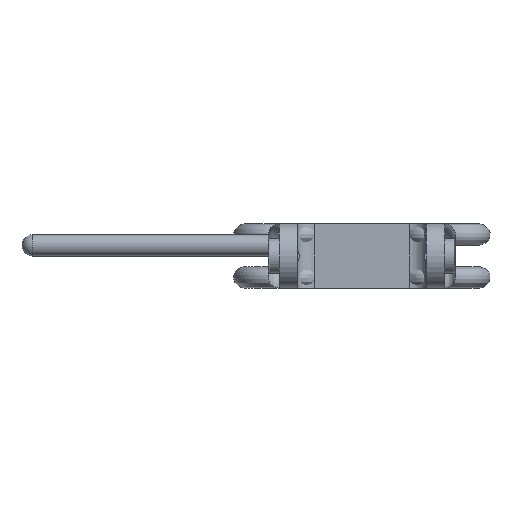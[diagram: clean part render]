
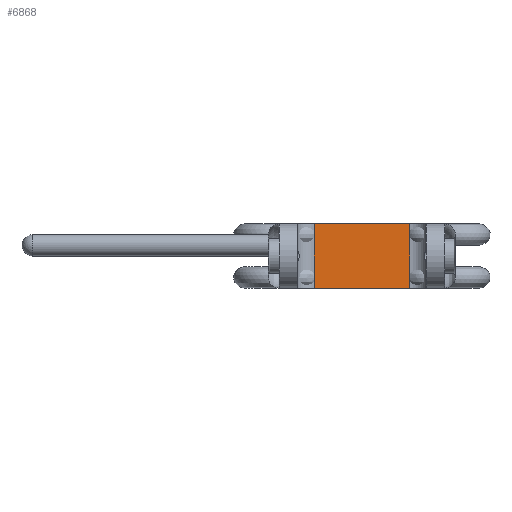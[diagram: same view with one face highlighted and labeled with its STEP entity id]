
A CAD part, front view. The second image highlights one B-rep face of the part: STEP entity #6868.
In plain terms, the highlighted planar face has unit normal (0, -1, 0).
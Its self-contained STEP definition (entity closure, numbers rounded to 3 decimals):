
#1389 = PLANE('',#1390);
#1390 = AXIS2_PLACEMENT_3D('',#1391,#1392,#1393);
#1391 = CARTESIAN_POINT('',(-17.5,111.316,
    0.));
#1392 = DIRECTION('',(0.,0.,-1.));
#1393 = DIRECTION('',(0.,-1.,0.));
#3523 = PLANE('',#3524);
#3524 = AXIS2_PLACEMENT_3D('',#3525,#3526,#3527);
#3525 = CARTESIAN_POINT('',(-17.5,111.316,-12.));
#3526 = DIRECTION('',(0.,0.,1.));
#3527 = DIRECTION('',(0.,1.,0.));
#3892 = CYLINDRICAL_SURFACE('',#3893,3.2);
#3893 = AXIS2_PLACEMENT_3D('',#3894,#3895,#3896);
#3894 = CARTESIAN_POINT('',(-8.95,80.966,-12.));
#3895 = DIRECTION('',(0.,0.,-1.));
#3896 = DIRECTION('',(0.,-1.,0.));
#4155 = CYLINDRICAL_SURFACE('',#4156,3.2);
#4156 = AXIS2_PLACEMENT_3D('',#4157,#4158,#4159);
#4157 = CARTESIAN_POINT('',(8.95,80.966,-12.));
#4158 = DIRECTION('',(0.,0.,-1.));
#4159 = DIRECTION('',(0.,-1.,0.));
#5454 = VERTEX_POINT('',#5455);
#5455 = CARTESIAN_POINT('',(-8.95,84.166,0.));
#5477 = EDGE_CURVE('',#5478,#5454,#5480,.T.);
#5478 = VERTEX_POINT('',#5479);
#5479 = CARTESIAN_POINT('',(8.95,84.166,
    0.));
#5480 = SURFACE_CURVE('',#5481,(#5485,#5492),.PCURVE_S1.);
#5481 = LINE('',#5482,#5483);
#5482 = CARTESIAN_POINT('',(-12.05,84.166,0.));
#5483 = VECTOR('',#5484,1.);
#5484 = DIRECTION('',(-1.,0.,0.));
#5485 = PCURVE('',#1389,#5486);
#5486 = DEFINITIONAL_REPRESENTATION('',(#5487),#5491);
#5487 = LINE('',#5488,#5489);
#5488 = CARTESIAN_POINT('',(27.15,-5.45));
#5489 = VECTOR('',#5490,1.);
#5490 = DIRECTION('',(0.,1.));
#5491 = ( GEOMETRIC_REPRESENTATION_CONTEXT(2) 
PARAMETRIC_REPRESENTATION_CONTEXT() REPRESENTATION_CONTEXT('2D SPACE',''
  ) );
#5492 = PCURVE('',#5493,#5498);
#5493 = PLANE('',#5494);
#5494 = AXIS2_PLACEMENT_3D('',#5495,#5496,#5497);
#5495 = CARTESIAN_POINT('',(-12.05,84.166,-12.));
#5496 = DIRECTION('',(0.,1.,0.));
#5497 = DIRECTION('',(0.,0.,-1.));
#5498 = DEFINITIONAL_REPRESENTATION('',(#5499),#5503);
#5499 = LINE('',#5500,#5501);
#5500 = CARTESIAN_POINT('',(-12.,0.));
#5501 = VECTOR('',#5502,1.);
#5502 = DIRECTION('',(0.,1.));
#5503 = ( GEOMETRIC_REPRESENTATION_CONTEXT(2) 
PARAMETRIC_REPRESENTATION_CONTEXT() REPRESENTATION_CONTEXT('2D SPACE',''
  ) );
#6817 = EDGE_CURVE('',#5454,#6818,#6820,.T.);
#6818 = VERTEX_POINT('',#6819);
#6819 = CARTESIAN_POINT('',(-8.95,84.166,-12.));
#6820 = SURFACE_CURVE('',#6821,(#6825,#6832),.PCURVE_S1.);
#6821 = LINE('',#6822,#6823);
#6822 = CARTESIAN_POINT('',(-8.95,84.166,-12.));
#6823 = VECTOR('',#6824,1.);
#6824 = DIRECTION('',(0.,0.,-1.));
#6825 = PCURVE('',#3892,#6826);
#6826 = DEFINITIONAL_REPRESENTATION('',(#6827),#6831);
#6827 = LINE('',#6828,#6829);
#6828 = CARTESIAN_POINT('',(3.142,0.));
#6829 = VECTOR('',#6830,1.);
#6830 = DIRECTION('',(0.,1.));
#6831 = ( GEOMETRIC_REPRESENTATION_CONTEXT(2) 
PARAMETRIC_REPRESENTATION_CONTEXT() REPRESENTATION_CONTEXT('2D SPACE',''
  ) );
#6832 = PCURVE('',#5493,#6833);
#6833 = DEFINITIONAL_REPRESENTATION('',(#6834),#6838);
#6834 = LINE('',#6835,#6836);
#6835 = CARTESIAN_POINT('',(0.,-3.1));
#6836 = VECTOR('',#6837,1.);
#6837 = DIRECTION('',(1.,0.));
#6838 = ( GEOMETRIC_REPRESENTATION_CONTEXT(2) 
PARAMETRIC_REPRESENTATION_CONTEXT() REPRESENTATION_CONTEXT('2D SPACE',''
  ) );
#6868 = ADVANCED_FACE('',(#6869),#5493,.F.);
#6869 = FACE_BOUND('',#6870,.T.);
#6870 = EDGE_LOOP('',(#6871,#6872,#6895,#6916));
#6871 = ORIENTED_EDGE('',*,*,#6817,.T.);
#6872 = ORIENTED_EDGE('',*,*,#6873,.F.);
#6873 = EDGE_CURVE('',#6874,#6818,#6876,.T.);
#6874 = VERTEX_POINT('',#6875);
#6875 = CARTESIAN_POINT('',(8.95,84.166,-12.));
#6876 = SURFACE_CURVE('',#6877,(#6881,#6888),.PCURVE_S1.);
#6877 = LINE('',#6878,#6879);
#6878 = CARTESIAN_POINT('',(-17.5,84.166,-12.));
#6879 = VECTOR('',#6880,1.);
#6880 = DIRECTION('',(-1.,0.,0.));
#6881 = PCURVE('',#5493,#6882);
#6882 = DEFINITIONAL_REPRESENTATION('',(#6883),#6887);
#6883 = LINE('',#6884,#6885);
#6884 = CARTESIAN_POINT('',(0.,5.45));
#6885 = VECTOR('',#6886,1.);
#6886 = DIRECTION('',(0.,1.));
#6887 = ( GEOMETRIC_REPRESENTATION_CONTEXT(2) 
PARAMETRIC_REPRESENTATION_CONTEXT() REPRESENTATION_CONTEXT('2D SPACE',''
  ) );
#6888 = PCURVE('',#3523,#6889);
#6889 = DEFINITIONAL_REPRESENTATION('',(#6890),#6894);
#6890 = LINE('',#6891,#6892);
#6891 = CARTESIAN_POINT('',(-27.15,0.));
#6892 = VECTOR('',#6893,1.);
#6893 = DIRECTION('',(0.,1.));
#6894 = ( GEOMETRIC_REPRESENTATION_CONTEXT(2) 
PARAMETRIC_REPRESENTATION_CONTEXT() REPRESENTATION_CONTEXT('2D SPACE',''
  ) );
#6895 = ORIENTED_EDGE('',*,*,#6896,.F.);
#6896 = EDGE_CURVE('',#5478,#6874,#6897,.T.);
#6897 = SURFACE_CURVE('',#6898,(#6902,#6909),.PCURVE_S1.);
#6898 = LINE('',#6899,#6900);
#6899 = CARTESIAN_POINT('',(8.95,84.166,-12.));
#6900 = VECTOR('',#6901,1.);
#6901 = DIRECTION('',(0.,0.,-1.));
#6902 = PCURVE('',#5493,#6903);
#6903 = DEFINITIONAL_REPRESENTATION('',(#6904),#6908);
#6904 = LINE('',#6905,#6906);
#6905 = CARTESIAN_POINT('',(0.,-21.));
#6906 = VECTOR('',#6907,1.);
#6907 = DIRECTION('',(1.,0.));
#6908 = ( GEOMETRIC_REPRESENTATION_CONTEXT(2) 
PARAMETRIC_REPRESENTATION_CONTEXT() REPRESENTATION_CONTEXT('2D SPACE',''
  ) );
#6909 = PCURVE('',#4155,#6910);
#6910 = DEFINITIONAL_REPRESENTATION('',(#6911),#6915);
#6911 = LINE('',#6912,#6913);
#6912 = CARTESIAN_POINT('',(3.142,0.));
#6913 = VECTOR('',#6914,1.);
#6914 = DIRECTION('',(0.,1.));
#6915 = ( GEOMETRIC_REPRESENTATION_CONTEXT(2) 
PARAMETRIC_REPRESENTATION_CONTEXT() REPRESENTATION_CONTEXT('2D SPACE',''
  ) );
#6916 = ORIENTED_EDGE('',*,*,#5477,.T.);
